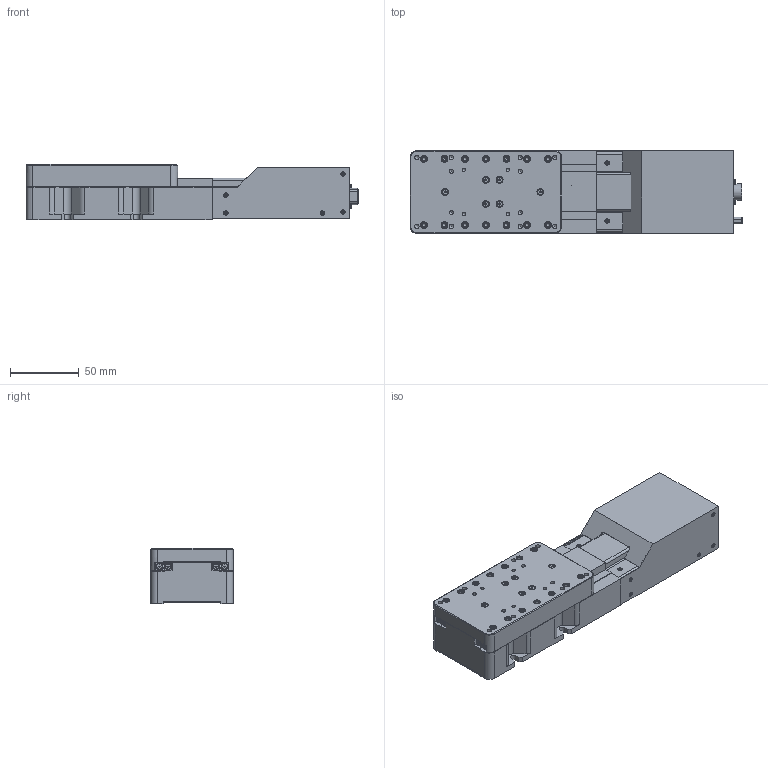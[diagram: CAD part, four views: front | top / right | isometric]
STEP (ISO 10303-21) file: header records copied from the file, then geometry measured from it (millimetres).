
FILE_DESCRIPTION(/* description */ (''),/* implementation_level */ '2;1');
FILE_NAME(/* name */ '\\FS401\share\Public_Div\生産本部_光学機器部\1_MEKA\1_motorized_stages\05_電子カタログ\48_NFS\NFS60-40UPX\NFS60-40UPX_STP.stp',/* time_stamp */ '2022-05-26T15:55:41+09:00',/* author */ ('t.kamimura'),/* organization */ (''),/* preprocessor_version */ 'ST-DEVELOPER v18.1',/* originating_system */ 'Autodesk Inventor 2021',/* authorisation */ '');
FILE_SCHEMA (('AUTOMOTIVE_DESIGN { 1 0 10303 214 3 1 1 }'));
Products named in the file (3): NFS0604U-M02-22001-TS01; NFS0604-M02-22001-S38; NFS0604-M02-22001-S32
Assembly tree (2 placements, depth 2):
  NFS0604U-M02-22001-TS01
    NFS0604-M02-22001-S38
    NFS0604-M02-22001-S32
Bounding box: 240.86 x 60 x 40 mm (x, y, z)
Volume: 227256.9 mm3; surface area: 142114.3 mm2
Topology: 4 solids, 4 shells, 2758 faces, 7012 edges, 4507 vertices
Faces by surface type: plane 1918, cylinder 566, cone 251, torus 23
Full cylindrical faces by diameter (mm): 0.8 x6, 1.567 x4, 1.6 x6, 1.7 x2, 2 x16, 2.013 x12, 2.1 x1, 2.113 x2, 2.2 x4, 2.4 x4, 2.459 x32, 2.5 x2, 2.6 x2, 2.8 x5, 3 x33, 3.242 x10, 3.55 x6, 3.6 x1, 3.8 x18, 4 x9, 4.06 x4, 4.1 x2, 4.4 x28, 4.5 x18, 4.8 x1, 5 x26, 5.2 x1, 5.5 x2, 6 x1, 7.6 x1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
Entity records: 86657 total; most frequent: CARTESIAN_POINT 16209, DIRECTION 14019, ORIENTED_EDGE 13908, EDGE_CURVE 6954, LINE 4939, VECTOR 4939, AXIS2_PLACEMENT_3D 4540, VERTEX_POINT 4507
